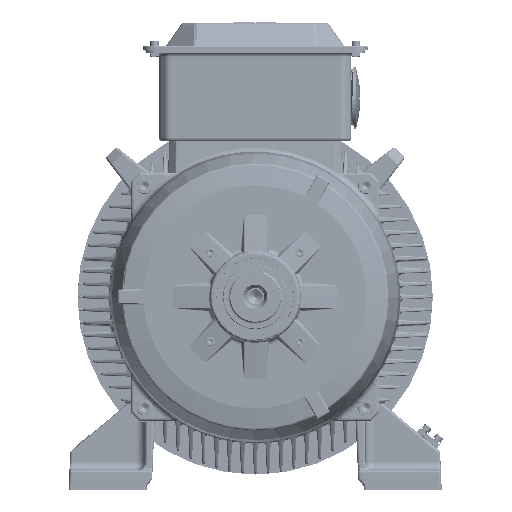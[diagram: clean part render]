
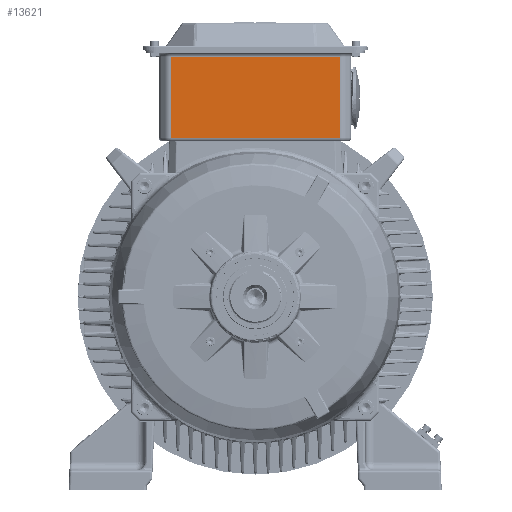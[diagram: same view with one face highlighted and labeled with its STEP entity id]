
A CAD part, front view. The second image highlights one B-rep face of the part: STEP entity #13621.
In plain terms, the highlighted planar face has unit normal (0, -1, 0).
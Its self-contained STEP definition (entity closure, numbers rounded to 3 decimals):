
#5022=PLANE('',#92690);
#13621=ADVANCED_FACE('',(#20911),#5022,.T.);
#20911=FACE_OUTER_BOUND('',#26431,.T.);
#26431=EDGE_LOOP('',(#53610,#53611,#53612,#53613));
#53610=ORIENTED_EDGE('',*,*,#75115,.T.);
#53611=ORIENTED_EDGE('',*,*,#74910,.T.);
#53612=ORIENTED_EDGE('',*,*,#75116,.F.);
#53613=ORIENTED_EDGE('',*,*,#75054,.T.);
#63154=VERTEX_POINT('',#173609);
#63158=VERTEX_POINT('',#173621);
#63250=VERTEX_POINT('',#173897);
#63254=VERTEX_POINT('',#173909);
#74910=EDGE_CURVE('',#63158,#63154,#80052,.T.);
#75054=EDGE_CURVE('',#63254,#63250,#80100,.T.);
#75115=EDGE_CURVE('',#63250,#63158,#80146,.T.);
#75116=EDGE_CURVE('',#63254,#63154,#80147,.T.);
#80052=LINE('',#173624,#84003);
#80100=LINE('',#173912,#84051);
#80146=LINE('',#174034,#84097);
#80147=LINE('',#174036,#84098);
#84003=VECTOR('',#113856,1.);
#84051=VECTOR('',#114192,1.);
#84097=VECTOR('',#114354,1.);
#84098=VECTOR('',#114357,1.);
#92690=AXIS2_PLACEMENT_3D('',#174037,#114358,#114359);
#113856=DIRECTION('',(1.,0.,0.));
#114192=DIRECTION('',(-1.,0.,0.));
#114354=DIRECTION('',(0.,0.,-1.));
#114357=DIRECTION('',(0.,0.,-1.));
#114358=DIRECTION('',(0.,-1.,0.));
#114359=DIRECTION('',(-1.,0.,0.));
#173609=CARTESIAN_POINT('',(98.335,77.9,185.6));
#173621=CARTESIAN_POINT('',(-98.335,77.9,185.6));
#173624=CARTESIAN_POINT('',(98.335,77.9,185.6));
#173897=CARTESIAN_POINT('',(-98.335,77.9,279.4));
#173909=CARTESIAN_POINT('',(98.335,77.9,279.4));
#173912=CARTESIAN_POINT('',(-98.335,77.9,279.4));
#174034=CARTESIAN_POINT('',(-98.335,77.9,286.));
#174036=CARTESIAN_POINT('',(98.335,77.9,286.));
#174037=CARTESIAN_POINT('',(98.335,77.9,286.));
